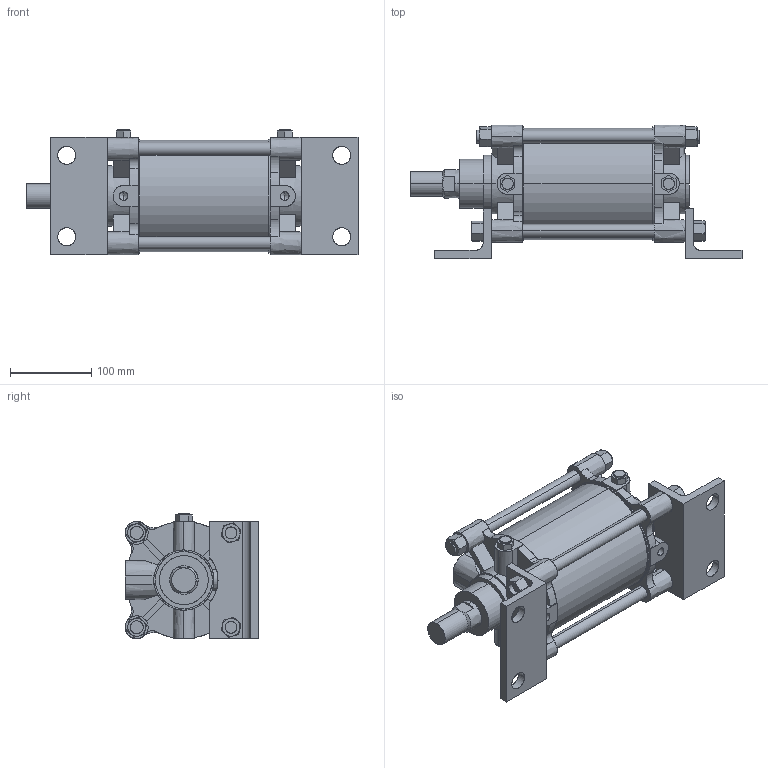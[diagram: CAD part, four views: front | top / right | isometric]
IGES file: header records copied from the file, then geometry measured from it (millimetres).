
Start section: SolidWorks IGES file using analytic representation for surfaces
Global section: file name: C:\Users\Toshiba\Desktop\A##2-125#-100-L.IGS; native system: SolidWorks 2014; preprocessor: SolidWorks 2014; author: Toshiba; date: 160331.145117; units: millimetre
Bounding box: 408 x 164 x 154 mm (x, y, z)
Surface area: 431306.1 mm2 (no closed solid volume)
Topology: 0 solids, 0 shells, 424 faces, 7744 edges, 7732 vertices
Faces by surface type: bspline 250, revolution 174
